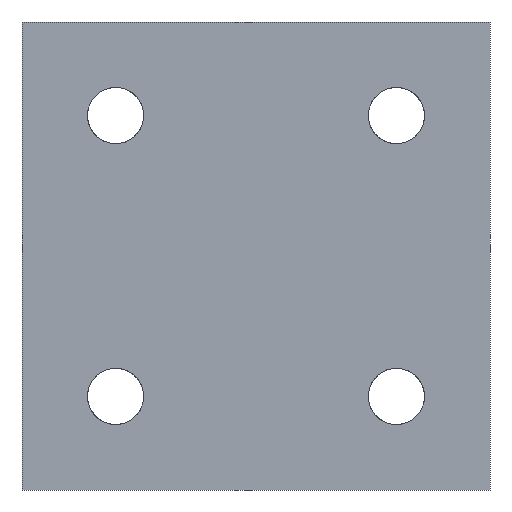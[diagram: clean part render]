
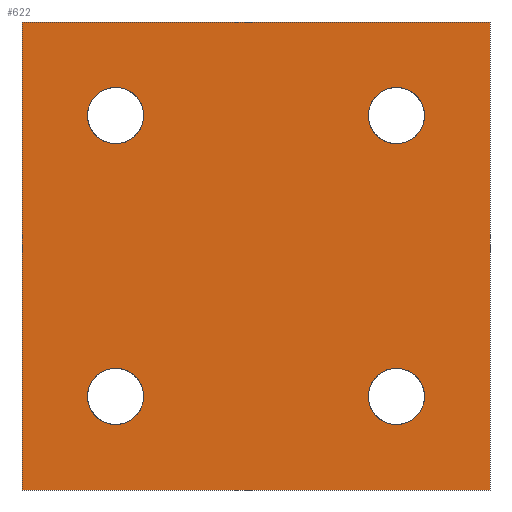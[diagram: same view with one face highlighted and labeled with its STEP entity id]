
A CAD part, front view. The second image highlights one B-rep face of the part: STEP entity #622.
In plain terms, the highlighted face is a extrusion surface.
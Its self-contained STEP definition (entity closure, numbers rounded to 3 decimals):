
#439=CARTESIAN_POINT('Control Point',(-75.,0.,0.)) ;
#440=CARTESIAN_POINT('Control Point',(-75.,0.,-75.)) ;
#444=CARTESIAN_POINT('Line Origine',(-37.5,0.,-75.)) ;
#448=CARTESIAN_POINT('Vertex',(-75.,0.,-75.)) ;
#450=CARTESIAN_POINT('Vertex',(0.,0.,-75.)) ;
#453=CARTESIAN_POINT('Line Origine',(0.,0.,-37.5)) ;
#457=CARTESIAN_POINT('Vertex',(0.,0.,0.)) ;
#460=CARTESIAN_POINT('Line Origine',(-37.5,0.,0.)) ;
#464=CARTESIAN_POINT('Vertex',(-75.,0.,0.)) ;
#467=CARTESIAN_POINT('Line Origine',(-75.,0.,-37.5)) ;
#479=CARTESIAN_POINT('Control Point',(-10.5,0.,-60.)) ;
#480=CARTESIAN_POINT('Control Point',(-10.5,0.,-61.247)) ;
#481=CARTESIAN_POINT('Control Point',(-10.932,0.,-62.494)) ;
#482=CARTESIAN_POINT('Control Point',(-11.8,0.,-63.539)) ;
#483=CARTESIAN_POINT('Control Point',(-13.71,0.,-64.63)) ;
#484=CARTESIAN_POINT('Control Point',(-15.841,0.,-64.54)) ;
#485=CARTESIAN_POINT('Control Point',(-16.671,0.,-64.305)) ;
#486=CARTESIAN_POINT('Control Point',(-18.085,0.,-63.511)) ;
#487=CARTESIAN_POINT('Control Point',(-19.032,0.,-62.204)) ;
#488=CARTESIAN_POINT('Control Point',(-19.344,0.,-61.498)) ;
#489=CARTESIAN_POINT('Control Point',(-19.5,0.,-60.749)) ;
#490=CARTESIAN_POINT('Control Point',(-19.5,0.,-60.)) ;
#491=CARTESIAN_POINT('Vertex',(-10.5,0.,-60.)) ;
#493=CARTESIAN_POINT('Vertex',(-19.5,0.,-60.)) ;
#497=CARTESIAN_POINT('Control Point',(-19.5,0.,-60.)) ;
#498=CARTESIAN_POINT('Control Point',(-19.5,0.,-58.753)) ;
#499=CARTESIAN_POINT('Control Point',(-19.068,0.,-57.506)) ;
#500=CARTESIAN_POINT('Control Point',(-18.2,0.,-56.461)) ;
#501=CARTESIAN_POINT('Control Point',(-16.29,0.,-55.37)) ;
#502=CARTESIAN_POINT('Control Point',(-14.159,0.,-55.46)) ;
#503=CARTESIAN_POINT('Control Point',(-13.329,0.,-55.695)) ;
#504=CARTESIAN_POINT('Control Point',(-11.915,0.,-56.489)) ;
#505=CARTESIAN_POINT('Control Point',(-10.968,0.,-57.796)) ;
#506=CARTESIAN_POINT('Control Point',(-10.656,0.,-58.502)) ;
#507=CARTESIAN_POINT('Control Point',(-10.5,0.,-59.251)) ;
#508=CARTESIAN_POINT('Control Point',(-10.5,0.,-60.)) ;
#515=CARTESIAN_POINT('Control Point',(-55.5,0.,-60.)) ;
#516=CARTESIAN_POINT('Control Point',(-55.5,0.,-61.247)) ;
#517=CARTESIAN_POINT('Control Point',(-55.932,0.,-62.494)) ;
#518=CARTESIAN_POINT('Control Point',(-56.8,0.,-63.539)) ;
#519=CARTESIAN_POINT('Control Point',(-58.71,0.,-64.63)) ;
#520=CARTESIAN_POINT('Control Point',(-60.841,0.,-64.54)) ;
#521=CARTESIAN_POINT('Control Point',(-61.671,0.,-64.305)) ;
#522=CARTESIAN_POINT('Control Point',(-63.085,0.,-63.511)) ;
#523=CARTESIAN_POINT('Control Point',(-64.032,0.,-62.204)) ;
#524=CARTESIAN_POINT('Control Point',(-64.344,0.,-61.498)) ;
#525=CARTESIAN_POINT('Control Point',(-64.5,0.,-60.749)) ;
#526=CARTESIAN_POINT('Control Point',(-64.5,0.,-60.)) ;
#527=CARTESIAN_POINT('Vertex',(-55.5,0.,-60.)) ;
#529=CARTESIAN_POINT('Vertex',(-64.5,0.,-60.)) ;
#533=CARTESIAN_POINT('Control Point',(-64.5,0.,-60.)) ;
#534=CARTESIAN_POINT('Control Point',(-64.5,0.,-58.753)) ;
#535=CARTESIAN_POINT('Control Point',(-64.068,0.,-57.506)) ;
#536=CARTESIAN_POINT('Control Point',(-63.2,0.,-56.461)) ;
#537=CARTESIAN_POINT('Control Point',(-61.29,0.,-55.37)) ;
#538=CARTESIAN_POINT('Control Point',(-59.159,0.,-55.46)) ;
#539=CARTESIAN_POINT('Control Point',(-58.329,0.,-55.695)) ;
#540=CARTESIAN_POINT('Control Point',(-56.915,0.,-56.489)) ;
#541=CARTESIAN_POINT('Control Point',(-55.968,0.,-57.796)) ;
#542=CARTESIAN_POINT('Control Point',(-55.656,0.,-58.502)) ;
#543=CARTESIAN_POINT('Control Point',(-55.5,0.,-59.251)) ;
#544=CARTESIAN_POINT('Control Point',(-55.5,0.,-60.)) ;
#551=CARTESIAN_POINT('Control Point',(-55.5,0.,-15.)) ;
#552=CARTESIAN_POINT('Control Point',(-55.5,0.,-16.247)) ;
#553=CARTESIAN_POINT('Control Point',(-55.932,0.,-17.494)) ;
#554=CARTESIAN_POINT('Control Point',(-56.8,0.,-18.539)) ;
#555=CARTESIAN_POINT('Control Point',(-58.71,0.,-19.63)) ;
#556=CARTESIAN_POINT('Control Point',(-60.841,0.,-19.54)) ;
#557=CARTESIAN_POINT('Control Point',(-61.671,0.,-19.305)) ;
#558=CARTESIAN_POINT('Control Point',(-63.085,0.,-18.511)) ;
#559=CARTESIAN_POINT('Control Point',(-64.032,0.,-17.204)) ;
#560=CARTESIAN_POINT('Control Point',(-64.344,0.,-16.498)) ;
#561=CARTESIAN_POINT('Control Point',(-64.5,0.,-15.749)) ;
#562=CARTESIAN_POINT('Control Point',(-64.5,0.,-15.)) ;
#563=CARTESIAN_POINT('Vertex',(-55.5,0.,-15.)) ;
#565=CARTESIAN_POINT('Vertex',(-64.5,0.,-15.)) ;
#569=CARTESIAN_POINT('Control Point',(-64.5,0.,-15.)) ;
#570=CARTESIAN_POINT('Control Point',(-64.5,0.,-13.753)) ;
#571=CARTESIAN_POINT('Control Point',(-64.068,0.,-12.506)) ;
#572=CARTESIAN_POINT('Control Point',(-63.2,0.,-11.461)) ;
#573=CARTESIAN_POINT('Control Point',(-61.29,0.,-10.37)) ;
#574=CARTESIAN_POINT('Control Point',(-59.159,0.,-10.46)) ;
#575=CARTESIAN_POINT('Control Point',(-58.329,0.,-10.695)) ;
#576=CARTESIAN_POINT('Control Point',(-56.915,0.,-11.489)) ;
#577=CARTESIAN_POINT('Control Point',(-55.968,0.,-12.796)) ;
#578=CARTESIAN_POINT('Control Point',(-55.656,0.,-13.502)) ;
#579=CARTESIAN_POINT('Control Point',(-55.5,0.,-14.251)) ;
#580=CARTESIAN_POINT('Control Point',(-55.5,0.,-15.)) ;
#587=CARTESIAN_POINT('Control Point',(-10.5,0.,-15.)) ;
#588=CARTESIAN_POINT('Control Point',(-10.5,0.,-16.247)) ;
#589=CARTESIAN_POINT('Control Point',(-10.932,0.,-17.494)) ;
#590=CARTESIAN_POINT('Control Point',(-11.8,0.,-18.539)) ;
#591=CARTESIAN_POINT('Control Point',(-13.71,0.,-19.63)) ;
#592=CARTESIAN_POINT('Control Point',(-15.841,0.,-19.54)) ;
#593=CARTESIAN_POINT('Control Point',(-16.671,0.,-19.305)) ;
#594=CARTESIAN_POINT('Control Point',(-18.085,0.,-18.511)) ;
#595=CARTESIAN_POINT('Control Point',(-19.032,0.,-17.204)) ;
#596=CARTESIAN_POINT('Control Point',(-19.344,0.,-16.498)) ;
#597=CARTESIAN_POINT('Control Point',(-19.5,0.,-15.749)) ;
#598=CARTESIAN_POINT('Control Point',(-19.5,0.,-15.)) ;
#599=CARTESIAN_POINT('Vertex',(-10.5,0.,-15.)) ;
#601=CARTESIAN_POINT('Vertex',(-19.5,0.,-15.)) ;
#605=CARTESIAN_POINT('Control Point',(-19.5,0.,-15.)) ;
#606=CARTESIAN_POINT('Control Point',(-19.5,0.,-13.753)) ;
#607=CARTESIAN_POINT('Control Point',(-19.068,0.,-12.506)) ;
#608=CARTESIAN_POINT('Control Point',(-18.2,0.,-11.461)) ;
#609=CARTESIAN_POINT('Control Point',(-16.29,0.,-10.37)) ;
#610=CARTESIAN_POINT('Control Point',(-14.159,0.,-10.46)) ;
#611=CARTESIAN_POINT('Control Point',(-13.329,0.,-10.695)) ;
#612=CARTESIAN_POINT('Control Point',(-11.915,0.,-11.489)) ;
#613=CARTESIAN_POINT('Control Point',(-10.968,0.,-12.796)) ;
#614=CARTESIAN_POINT('Control Point',(-10.656,0.,-13.502)) ;
#615=CARTESIAN_POINT('Control Point',(-10.5,0.,-14.251)) ;
#616=CARTESIAN_POINT('Control Point',(-10.5,0.,-15.)) ;
#441=DIRECTION('Vector Direction',(1.,0.,0.)) ;
#445=DIRECTION('Vector Direction',(1.,0.,0.)) ;
#454=DIRECTION('Vector Direction',(0.,0.,-1.)) ;
#461=DIRECTION('Vector Direction',(1.,0.,0.)) ;
#468=DIRECTION('Vector Direction',(0.,0.,-1.)) ;
#473=ORIENTED_EDGE('',*,*,#452,.T.) ;
#474=ORIENTED_EDGE('',*,*,#459,.T.) ;
#475=ORIENTED_EDGE('',*,*,#466,.T.) ;
#476=ORIENTED_EDGE('',*,*,#471,.T.) ;
#511=ORIENTED_EDGE('',*,*,#495,.T.) ;
#512=ORIENTED_EDGE('',*,*,#509,.T.) ;
#547=ORIENTED_EDGE('',*,*,#531,.T.) ;
#548=ORIENTED_EDGE('',*,*,#545,.T.) ;
#583=ORIENTED_EDGE('',*,*,#567,.T.) ;
#584=ORIENTED_EDGE('',*,*,#581,.T.) ;
#619=ORIENTED_EDGE('',*,*,#603,.T.) ;
#620=ORIENTED_EDGE('',*,*,#617,.T.) ;
#513=FACE_BOUND('',#510,.T.) ;
#549=FACE_BOUND('',#546,.T.) ;
#585=FACE_BOUND('',#582,.T.) ;
#621=FACE_BOUND('',#618,.T.) ;
#442=VECTOR('Extrusion Surface Vector',#441,1.) ;
#446=VECTOR('Line Direction',#445,1.) ;
#455=VECTOR('Line Direction',#454,1.) ;
#462=VECTOR('Line Direction',#461,1.) ;
#469=VECTOR('Line Direction',#468,1.) ;
#622=ADVANCED_FACE('Superficie.6',(#477,#513,#549,#585,#621),#443,.T.) ;
#438=B_SPLINE_CURVE_WITH_KNOTS('',1,(#439,#440),.UNSPECIFIED.,.F.,.U.,(2,2),(-37.5,37.5),.UNSPECIFIED.) ;
#478=B_SPLINE_CURVE_WITH_KNOTS('',5,(#479,#480,#481,#482,#483,#484,#485,#486,#487,#488,#489,#490),.UNSPECIFIED.,.F.,.U.,(6,3,3,6),(0.,8.818,14.697,19.993),.UNSPECIFIED.) ;
#496=B_SPLINE_CURVE_WITH_KNOTS('',5,(#497,#498,#499,#500,#501,#502,#503,#504,#505,#506,#507,#508),.UNSPECIFIED.,.F.,.U.,(6,3,3,6),(0.,8.818,14.697,19.993),.UNSPECIFIED.) ;
#514=B_SPLINE_CURVE_WITH_KNOTS('',5,(#515,#516,#517,#518,#519,#520,#521,#522,#523,#524,#525,#526),.UNSPECIFIED.,.F.,.U.,(6,3,3,6),(0.,8.818,14.697,19.993),.UNSPECIFIED.) ;
#532=B_SPLINE_CURVE_WITH_KNOTS('',5,(#533,#534,#535,#536,#537,#538,#539,#540,#541,#542,#543,#544),.UNSPECIFIED.,.F.,.U.,(6,3,3,6),(0.,8.818,14.697,19.993),.UNSPECIFIED.) ;
#550=B_SPLINE_CURVE_WITH_KNOTS('',5,(#551,#552,#553,#554,#555,#556,#557,#558,#559,#560,#561,#562),.UNSPECIFIED.,.F.,.U.,(6,3,3,6),(0.,8.818,14.697,19.993),.UNSPECIFIED.) ;
#568=B_SPLINE_CURVE_WITH_KNOTS('',5,(#569,#570,#571,#572,#573,#574,#575,#576,#577,#578,#579,#580),.UNSPECIFIED.,.F.,.U.,(6,3,3,6),(0.,8.818,14.697,19.993),.UNSPECIFIED.) ;
#586=B_SPLINE_CURVE_WITH_KNOTS('',5,(#587,#588,#589,#590,#591,#592,#593,#594,#595,#596,#597,#598),.UNSPECIFIED.,.F.,.U.,(6,3,3,6),(0.,8.818,14.697,19.993),.UNSPECIFIED.) ;
#604=B_SPLINE_CURVE_WITH_KNOTS('',5,(#605,#606,#607,#608,#609,#610,#611,#612,#613,#614,#615,#616),.UNSPECIFIED.,.F.,.U.,(6,3,3,6),(0.,8.818,14.697,19.993),.UNSPECIFIED.) ;
#452=EDGE_CURVE('',#449,#451,#447,.T.) ;
#459=EDGE_CURVE('',#451,#458,#456,.F.) ;
#466=EDGE_CURVE('',#458,#465,#463,.F.) ;
#471=EDGE_CURVE('',#465,#449,#470,.T.) ;
#495=EDGE_CURVE('',#492,#494,#478,.T.) ;
#509=EDGE_CURVE('',#494,#492,#496,.T.) ;
#531=EDGE_CURVE('',#528,#530,#514,.T.) ;
#545=EDGE_CURVE('',#530,#528,#532,.T.) ;
#567=EDGE_CURVE('',#564,#566,#550,.T.) ;
#581=EDGE_CURVE('',#566,#564,#568,.T.) ;
#603=EDGE_CURVE('',#600,#602,#586,.T.) ;
#617=EDGE_CURVE('',#602,#600,#604,.T.) ;
#472=EDGE_LOOP('',(#473,#474,#475,#476)) ;
#510=EDGE_LOOP('',(#511,#512)) ;
#546=EDGE_LOOP('',(#547,#548)) ;
#582=EDGE_LOOP('',(#583,#584)) ;
#618=EDGE_LOOP('',(#619,#620)) ;
#477=FACE_OUTER_BOUND('',#472,.T.) ;
#447=LINE('Line',#444,#446) ;
#456=LINE('Line',#453,#455) ;
#463=LINE('Line',#460,#462) ;
#470=LINE('Line',#467,#469) ;
#443=SURFACE_OF_LINEAR_EXTRUSION('generated tabulated cylinder',#438,#442) ;
#449=VERTEX_POINT('',#448) ;
#451=VERTEX_POINT('',#450) ;
#458=VERTEX_POINT('',#457) ;
#465=VERTEX_POINT('',#464) ;
#492=VERTEX_POINT('',#491) ;
#494=VERTEX_POINT('',#493) ;
#528=VERTEX_POINT('',#527) ;
#530=VERTEX_POINT('',#529) ;
#564=VERTEX_POINT('',#563) ;
#566=VERTEX_POINT('',#565) ;
#600=VERTEX_POINT('',#599) ;
#602=VERTEX_POINT('',#601) ;
